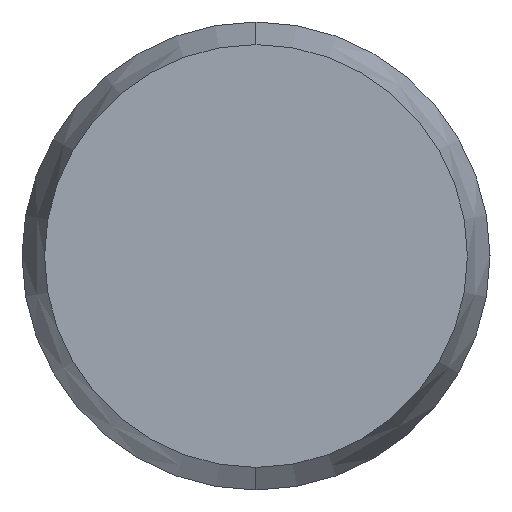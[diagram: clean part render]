
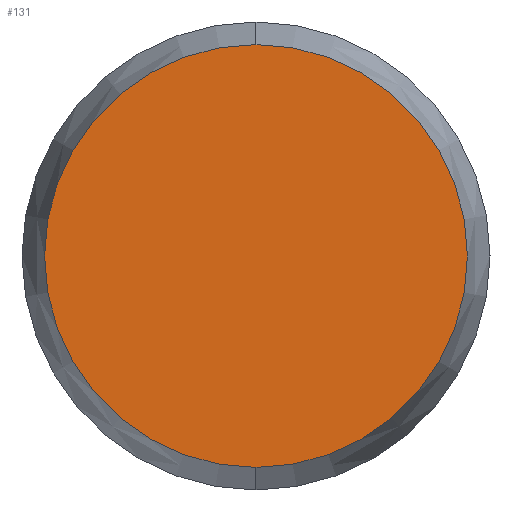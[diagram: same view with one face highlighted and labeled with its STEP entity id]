
A CAD part, left-side view. The second image highlights one B-rep face of the part: STEP entity #131.
In plain terms, the highlighted planar face has unit normal (-1, 0, 0).
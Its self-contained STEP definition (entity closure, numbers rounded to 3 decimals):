
#121 = EDGE_LOOP ( 'NONE', ( #122, #147 ) ) ;
#122 = ORIENTED_EDGE ( 'NONE', *, *, #124, .F. ) ;
#124 = EDGE_CURVE ( 'NONE', #125, #141, #190, .T. ) ;
#125 = VERTEX_POINT ( 'NONE', #199 ) ;
#131 = ADVANCED_FACE ( 'NONE', ( #194 ), #193, .F. ) ;
#141 = VERTEX_POINT ( 'NONE', #222 ) ;
#145 = EDGE_CURVE ( 'NONE', #141, #125, #226, .T. ) ;
#147 = ORIENTED_EDGE ( 'NONE', *, *, #145, .F. ) ;
#189 = AXIS2_PLACEMENT_3D ( 'NONE', #198, #197, #196 ) ;
#190 = CIRCLE ( 'NONE', #189, 1.129 ) ;
#191 = CARTESIAN_POINT ( 'NONE',  ( -9., 0., 0. ) ) ;
#192 = AXIS2_PLACEMENT_3D ( 'NONE', #191, #203, #202 ) ;
#193 = PLANE ( 'NONE',  #192 ) ;
#194 = FACE_OUTER_BOUND ( 'NONE', #121, .T. ) ;
#196 = DIRECTION ( 'NONE',  ( 0., 0., -1. ) ) ;
#197 = DIRECTION ( 'NONE',  ( 1., 0., 0. ) ) ;
#198 = CARTESIAN_POINT ( 'NONE',  ( -9., 0., 0. ) ) ;
#199 = CARTESIAN_POINT ( 'NONE',  ( -9., 0., 1.129 ) ) ;
#202 = DIRECTION ( 'NONE',  ( 0., 0., -1. ) ) ;
#203 = DIRECTION ( 'NONE',  ( 1., 0., 0. ) ) ;
#222 = CARTESIAN_POINT ( 'NONE',  ( -9., 0., -1.129 ) ) ;
#223 = DIRECTION ( 'NONE',  ( 1., 0., 0. ) ) ;
#224 = CARTESIAN_POINT ( 'NONE',  ( -9., 0., 0. ) ) ;
#225 = AXIS2_PLACEMENT_3D ( 'NONE', #224, #223, #230 ) ;
#226 = CIRCLE ( 'NONE', #225, 1.129 ) ;
#230 = DIRECTION ( 'NONE',  ( 0., 0., -1. ) ) ;
